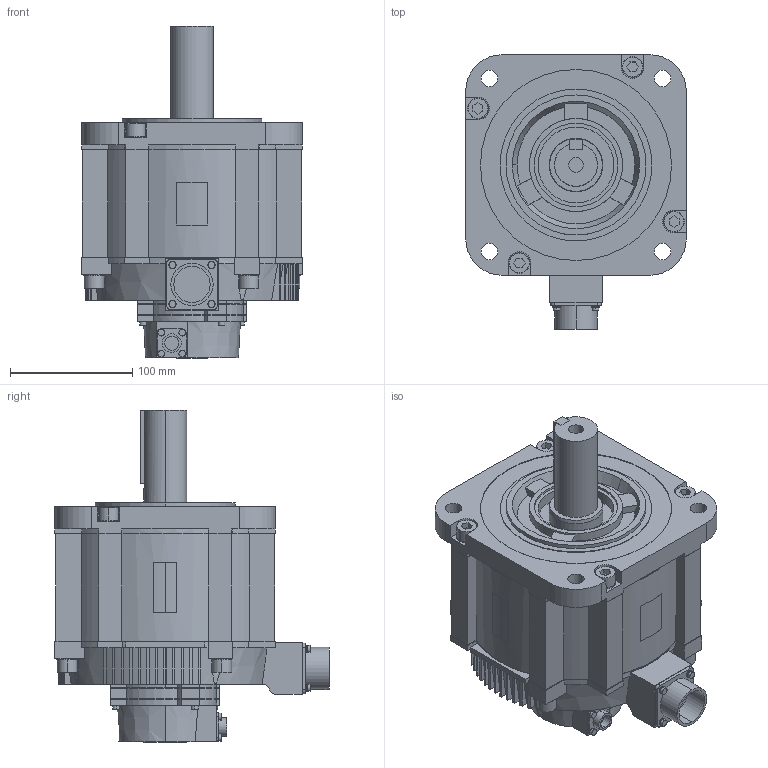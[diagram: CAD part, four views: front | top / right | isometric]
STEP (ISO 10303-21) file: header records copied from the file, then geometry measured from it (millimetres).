
FILE_DESCRIPTION (( 'STEP AP203' ), '1' );
FILE_NAME ('sgm7g_44a6a61.STEP', '2016-11-12T04:54:11', ( '匠エンジニアリング山之内' ), ( 'TAKUMI-Engniaring' ), 'SwSTEP 2.0', 'SolidWorks 2006303', '' );
FILE_SCHEMA (( 'CONFIG_CONTROL_DESIGN' ));
Length unit declared in the file: millimetre
Products named in the file (3): sgm7g_44a6a61_base; sgm7g_44a6a61_key; sgm7g_44a6a61
Assembly tree (2 placements, depth 2):
  sgm7g_44a6a61
    sgm7g_44a6a61_base
    sgm7g_44a6a61_key
Bounding box: 180 x 223.85 x 271.1 mm (x, y, z)
Volume: 4159047.3 mm3; surface area: 237332.6 mm2
Topology: 2 solids, 2 shells, 728 faces, 1917 edges, 1270 vertices
Faces by surface type: plane 442, cylinder 226, cone 60
Entity records: 23248 total; most frequent: CARTESIAN_POINT 4490, DIRECTION 3894, ORIENTED_EDGE 3834, EDGE_CURVE 1917, AXIS2_PLACEMENT_3D 1347, VERTEX_POINT 1270, LINE 1200, VECTOR 1200
